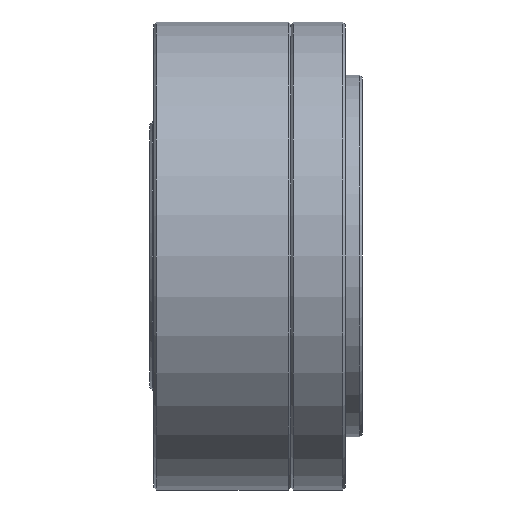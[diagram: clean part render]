
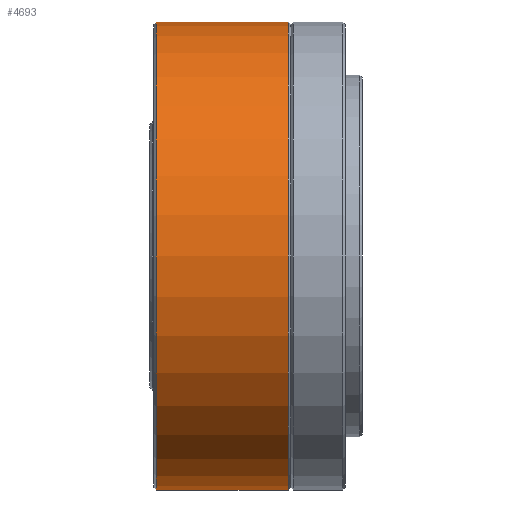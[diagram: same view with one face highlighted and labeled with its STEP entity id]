
A CAD part, front view. The second image highlights one B-rep face of the part: STEP entity #4693.
In plain terms, the highlighted cylindrical face has radius 27.5 mm (diameter 55 mm), a partial arc.
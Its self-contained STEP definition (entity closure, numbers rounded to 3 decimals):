
#494 = CIRCLE ( 'NONE', #13809, 27.5 ) ;
#890 = DIRECTION ( 'NONE',  ( -1., 0., 0. ) ) ;
#1384 = ORIENTED_EDGE ( 'NONE', *, *, #4877, .T. ) ;
#1968 = DIRECTION ( 'NONE',  ( -1., 0., 0. ) ) ;
#2098 = LINE ( 'NONE', #10939, #9718 ) ;
#2360 = CIRCLE ( 'NONE', #3517, 27.5 ) ;
#3517 = AXIS2_PLACEMENT_3D ( 'NONE', #13531, #4880, #14959 ) ;
#3678 = EDGE_CURVE ( 'NONE', #17246, #6067, #2360, .T. ) ;
#3894 = CYLINDRICAL_SURFACE ( 'NONE', #7469, 27.5 ) ;
#4693 = ADVANCED_FACE ( 'NONE', ( #15382 ), #3894, .T. ) ;
#4877 = EDGE_CURVE ( 'NONE', #6067, #11246, #2098, .T. ) ;
#4880 = DIRECTION ( 'NONE',  ( -1., 0., 0. ) ) ;
#5634 = EDGE_CURVE ( 'NONE', #11246, #16926, #494, .T. ) ;
#5855 = CARTESIAN_POINT ( 'NONE',  ( -15.8, 0., 27.5 ) ) ;
#6067 = VERTEX_POINT ( 'NONE', #18320 ) ;
#6310 = EDGE_CURVE ( 'NONE', #17246, #16926, #12371, .T. ) ;
#6795 = ORIENTED_EDGE ( 'NONE', *, *, #5634, .T. ) ;
#7190 = CARTESIAN_POINT ( 'NONE',  ( -15.8, 0., 0. ) ) ;
#7351 = CARTESIAN_POINT ( 'NONE',  ( -20., 0., -27.5 ) ) ;
#7374 = CARTESIAN_POINT ( 'NONE',  ( -0.3, 0., -27.5 ) ) ;
#7469 = AXIS2_PLACEMENT_3D ( 'NONE', #16351, #1968, #9123 ) ;
#8627 = DIRECTION ( 'NONE',  ( 0., 0., -1. ) ) ;
#9123 = DIRECTION ( 'NONE',  ( 0., 0., 1. ) ) ;
#9718 = VECTOR ( 'NONE', #890, 1000. ) ;
#10250 = DIRECTION ( 'NONE',  ( -1., 0., 0. ) ) ;
#10654 = ORIENTED_EDGE ( 'NONE', *, *, #3678, .T. ) ;
#10939 = CARTESIAN_POINT ( 'NONE',  ( -20., 0., 27.5 ) ) ;
#11246 = VERTEX_POINT ( 'NONE', #5855 ) ;
#12371 = LINE ( 'NONE', #7351, #15295 ) ;
#13531 = CARTESIAN_POINT ( 'NONE',  ( -0.3, 0., 0. ) ) ;
#13809 = AXIS2_PLACEMENT_3D ( 'NONE', #7190, #17310, #8627 ) ;
#14959 = DIRECTION ( 'NONE',  ( 0., 0., 1. ) ) ;
#15295 = VECTOR ( 'NONE', #10250, 1000. ) ;
#15382 = FACE_OUTER_BOUND ( 'NONE', #17955, .T. ) ;
#16351 = CARTESIAN_POINT ( 'NONE',  ( -20., 0., 0. ) ) ;
#16755 = CARTESIAN_POINT ( 'NONE',  ( -15.8, 0., -27.5 ) ) ;
#16874 = ORIENTED_EDGE ( 'NONE', *, *, #6310, .F. ) ;
#16926 = VERTEX_POINT ( 'NONE', #16755 ) ;
#17246 = VERTEX_POINT ( 'NONE', #7374 ) ;
#17310 = DIRECTION ( 'NONE',  ( 1., 0., 0. ) ) ;
#17955 = EDGE_LOOP ( 'NONE', ( #16874, #10654, #1384, #6795 ) ) ;
#18320 = CARTESIAN_POINT ( 'NONE',  ( -0.3, 0., 27.5 ) ) ;
